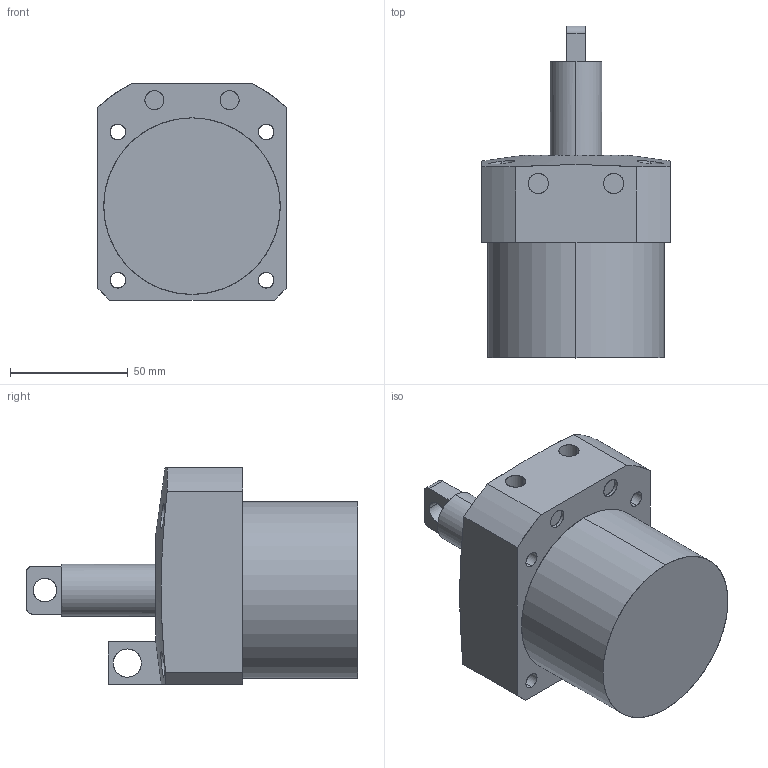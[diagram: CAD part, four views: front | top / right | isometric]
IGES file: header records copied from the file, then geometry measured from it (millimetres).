
Start section: SolidWorks IGES file using analytic representation for surfaces
Global section: file name: E:\karthik\CLASYS\FOR CD\Pneumatics\Toggle Cylinders\0412-0751\0412-0751.IGS; native system: SolidWorks 2010; preprocessor: SolidWorks 2010; author: karthik; date: 130917.095257; units: millimetre
Bounding box: 80 x 141 x 92 mm (x, y, z)
Surface area: 47255.3 mm2 (no closed solid volume)
Topology: 0 solids, 0 shells, 76 faces, 1627 edges, 1627 vertices
Faces by surface type: revolution 45, bspline 31
